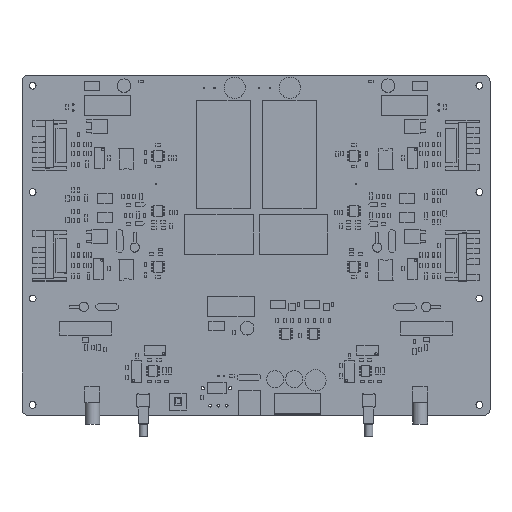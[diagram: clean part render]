
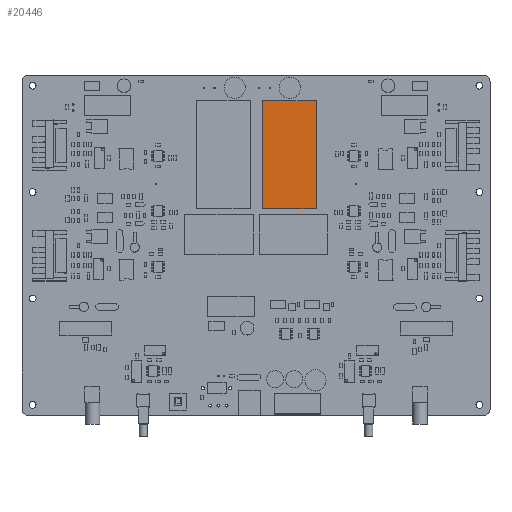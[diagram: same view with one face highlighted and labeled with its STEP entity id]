
A CAD part, top view. The second image highlights one B-rep face of the part: STEP entity #20446.
In plain terms, the highlighted planar face has unit normal (0, 0, 1).
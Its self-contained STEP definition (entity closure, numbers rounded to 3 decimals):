
#20189 = VERTEX_POINT('',#20190);
#20190 = CARTESIAN_POINT('',(12.691,25.371,12.246));
#20196 = EDGE_CURVE('',#20189,#20197,#20199,.T.);
#20197 = VERTEX_POINT('',#20198);
#20198 = CARTESIAN_POINT('',(12.691,-25.361,12.246));
#20199 = LINE('',#20200,#20201);
#20200 = CARTESIAN_POINT('',(12.691,25.371,12.246));
#20201 = VECTOR('',#20202,1.);
#20202 = DIRECTION('',(0.,-1.,0.));
#20227 = EDGE_CURVE('',#20197,#20228,#20230,.T.);
#20228 = VERTEX_POINT('',#20229);
#20229 = CARTESIAN_POINT('',(12.615,-25.436,12.246));
#20230 = LINE('',#20231,#20232);
#20231 = CARTESIAN_POINT('',(12.691,-25.361,12.246));
#20232 = VECTOR('',#20233,1.);
#20233 = DIRECTION('',(-0.707,-0.707,0.));
#20258 = EDGE_CURVE('',#20228,#20259,#20261,.T.);
#20259 = VERTEX_POINT('',#20260);
#20260 = CARTESIAN_POINT('',(-12.664,-25.436,12.246));
#20261 = LINE('',#20262,#20263);
#20262 = CARTESIAN_POINT('',(12.615,-25.436,12.246));
#20263 = VECTOR('',#20264,1.);
#20264 = DIRECTION('',(-1.,0.,0.));
#20289 = EDGE_CURVE('',#20259,#20290,#20292,.T.);
#20290 = VERTEX_POINT('',#20291);
#20291 = CARTESIAN_POINT('',(-12.664,25.403,12.246));
#20292 = LINE('',#20293,#20294);
#20293 = CARTESIAN_POINT('',(-12.664,-25.436,12.246));
#20294 = VECTOR('',#20295,1.);
#20295 = DIRECTION('',(0.,1.,0.));
#20320 = EDGE_CURVE('',#20290,#20321,#20323,.T.);
#20321 = VERTEX_POINT('',#20322);
#20322 = CARTESIAN_POINT('',(-12.691,25.429,12.246));
#20323 = LINE('',#20324,#20325);
#20324 = CARTESIAN_POINT('',(-12.664,25.403,12.246));
#20325 = VECTOR('',#20326,1.);
#20326 = DIRECTION('',(-0.707,0.707,0.));
#20351 = EDGE_CURVE('',#20321,#20352,#20354,.T.);
#20352 = VERTEX_POINT('',#20353);
#20353 = CARTESIAN_POINT('',(-12.684,25.436,12.246));
#20354 = LINE('',#20355,#20356);
#20355 = CARTESIAN_POINT('',(-12.691,25.429,12.246));
#20356 = VECTOR('',#20357,1.);
#20357 = DIRECTION('',(0.707,0.707,0.));
#20382 = EDGE_CURVE('',#20352,#20383,#20385,.T.);
#20383 = VERTEX_POINT('',#20384);
#20384 = CARTESIAN_POINT('',(-12.677,25.436,12.246));
#20385 = LINE('',#20386,#20387);
#20386 = CARTESIAN_POINT('',(-12.684,25.436,12.246));
#20387 = VECTOR('',#20388,1.);
#20388 = DIRECTION('',(1.,0.,0.));
#20413 = EDGE_CURVE('',#20383,#20189,#20414,.T.);
#20414 = LINE('',#20415,#20416);
#20415 = CARTESIAN_POINT('',(-12.677,25.436,12.246));
#20416 = VECTOR('',#20417,1.);
#20417 = DIRECTION('',(1.,-0.003,0.));
#20446 = ADVANCED_FACE('',(#20447),#20457,.F.);
#20447 = FACE_BOUND('',#20448,.F.);
#20448 = EDGE_LOOP('',(#20449,#20450,#20451,#20452,#20453,#20454,#20455,
    #20456));
#20449 = ORIENTED_EDGE('',*,*,#20196,.T.);
#20450 = ORIENTED_EDGE('',*,*,#20227,.T.);
#20451 = ORIENTED_EDGE('',*,*,#20258,.T.);
#20452 = ORIENTED_EDGE('',*,*,#20289,.T.);
#20453 = ORIENTED_EDGE('',*,*,#20320,.T.);
#20454 = ORIENTED_EDGE('',*,*,#20351,.T.);
#20455 = ORIENTED_EDGE('',*,*,#20382,.T.);
#20456 = ORIENTED_EDGE('',*,*,#20413,.T.);
#20457 = PLANE('',#20458);
#20458 = AXIS2_PLACEMENT_3D('',#20459,#20460,#20461);
#20459 = CARTESIAN_POINT('',(0.001,-0.003,
    12.246));
#20460 = DIRECTION('',(-0.,-0.,-1.));
#20461 = DIRECTION('',(-1.,0.,0.));
